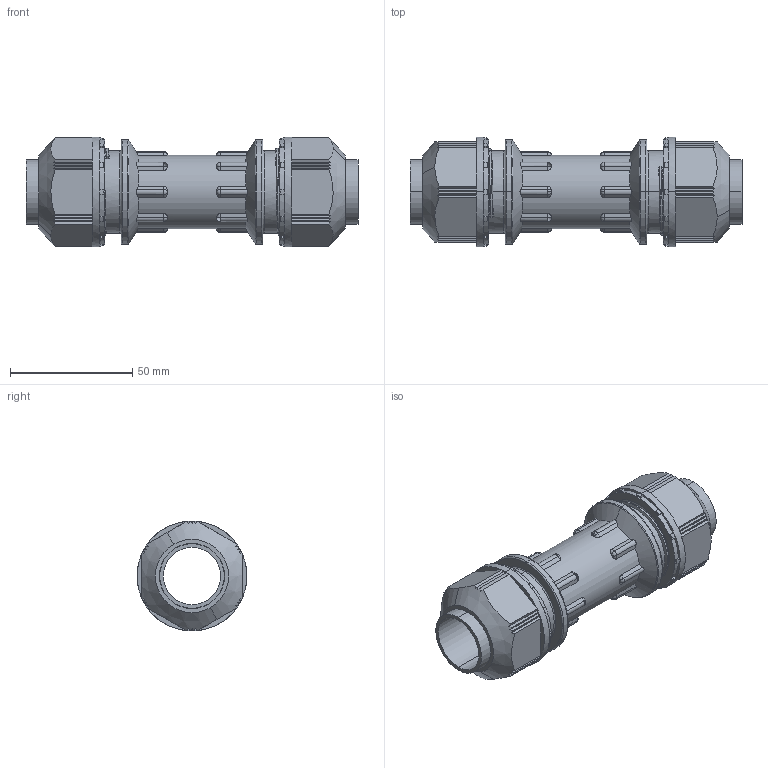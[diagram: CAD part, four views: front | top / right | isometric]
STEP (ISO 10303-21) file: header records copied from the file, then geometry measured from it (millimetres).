
FILE_DESCRIPTION(('Creo Elements/Direct Modeling STEP Export'),'2;1');
FILE_NAME('H07-0029-CL915-01_OA-QW23SN.stp','2012-09-19T15:43:24',(''),(''),'Creo Elements/Direct Modeling STEP processor for AP214 (Solid Model)','Creo Elements/Direct Modeling 18.0B 02-Dec-2011 (C) Parametric Technology GmbH','');
FILE_SCHEMA(('AUTOMOTIVE_DESIGN { 1 0 10303 214 1 1 1 1 }'));
Length unit declared in the file: millimetre
Products named in the file (6): G28-23_L; L側; G28-23_R; R側; OA-QW_本体; OA-QW23SN
Assembly tree (5 placements, depth 3):
  OA-QW23SN
    OA-QW_本体
    R側
      G28-23_R
    L側
      G28-23_L
Bounding box: 136 x 45 x 45 mm (x, y, z)
Volume: 72274.8 mm3; surface area: 43698.3 mm2
Topology: 3 solids, 3 shells, 510 faces, 1272 edges, 774 vertices
Faces by surface type: plane 294, cylinder 104, cone 72, sphere 20, torus 16, bspline 4
Entity records: 17766 total; most frequent: CARTESIAN_POINT 6841, ORIENTED_EDGE 2488, DIRECTION 1854, EDGE_CURVE 1244, VERTEX_POINT 774, AXIS2_PLACEMENT_3D 653, VECTOR 548, LINE 548
